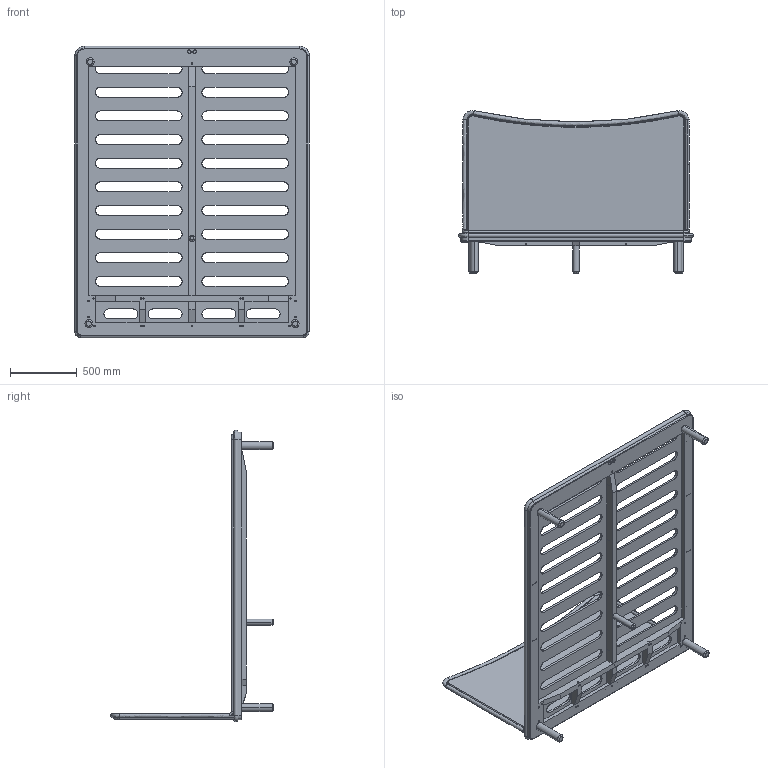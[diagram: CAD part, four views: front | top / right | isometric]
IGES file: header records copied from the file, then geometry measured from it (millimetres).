
Start section: SolidWorks IGES file using analytic representation for surfaces
Global section: file name: C:\Users\David.BDLE\Desktop\NOVOS 3D cad files\Carlton\061EQ_Carlton Bed_ve\061EQ_Carlton Bed_3D IGS.IGS; native system: SolidWorks 2016; preprocessor: SolidWorks 2016; author: David; date: 201215.091554; units: millimetre
Bounding box: 1750 x 1214.42 x 2175 mm (x, y, z)
Surface area: 11423463 mm2 (no closed solid volume)
Topology: 0 solids, 0 shells, 947 faces, 15758 edges, 15692 vertices
Faces by surface type: revolution 628, bspline 319
